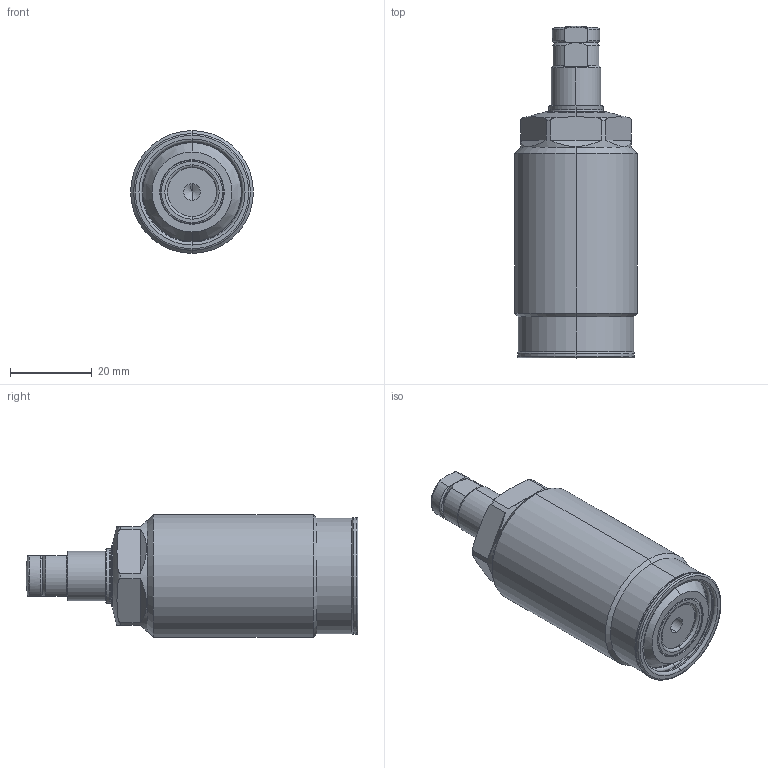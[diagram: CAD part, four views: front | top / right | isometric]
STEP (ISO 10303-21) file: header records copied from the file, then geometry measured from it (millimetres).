
FILE_DESCRIPTION(/* description */ (''),/* implementation_level */ '2;1');
FILE_NAME(/* name */ 'TSS30.stp',/* time_stamp */ '2024-11-02T13:16:28+08:00',/* author */ (''),/* organization */ (''),/* preprocessor_version */ 'ST-DEVELOPER v16.7',/* originating_system */ 'SIEMENS PLM Software NX 12.0',/* authorisation */ '');
FILE_SCHEMA (('AP203_CONFIGURATION_CONTROLLED_3D_DESIGN_OF_MECHANICAL_PARTS_AND_ASSEMBLIES_MIM_LF { 1 0 10303 403 2 1 2}'));
Length unit declared in the file: millimetre
Products named in the file (7): XLD-M8_Oring; XLD-M8_contactbolt; TSS30-04; TSS30-03; TSS30-01; TSS30-02; LD0303-x-E_step
Assembly tree (6 placements, depth 3):
  LD0303-x-E_step
    TSS30-01
    TSS30-02
      XLD-M8_contactbolt
      XLD-M8_Oring
    TSS30-03
    TSS30-04
Bounding box: 30 x 81 x 30 mm (x, y, z)
Volume: 39943.9 mm3; surface area: 9983.4 mm2
Topology: 5 solids, 5 shells, 168 faces, 370 edges, 221 vertices
Faces by surface type: torus 60, cylinder 41, plane 37, cone 28, sphere 2
Entity records: 5725 total; most frequent: CARTESIAN_POINT 1148, DIRECTION 903, ORIENTED_EDGE 736, AXIS2_PLACEMENT_3D 404, EDGE_CURVE 368, CIRCLE 229, VERTEX_POINT 221, EDGE_LOOP 183
